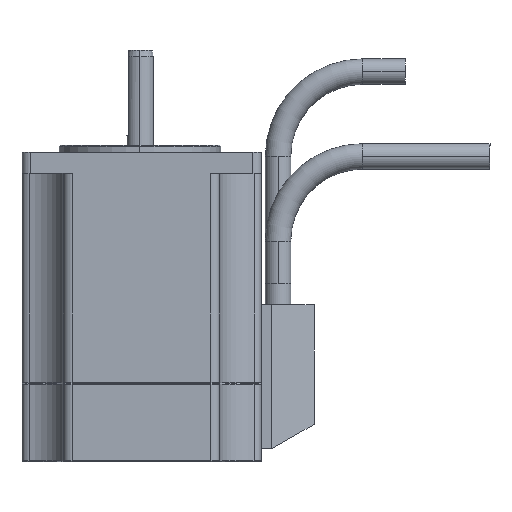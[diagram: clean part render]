
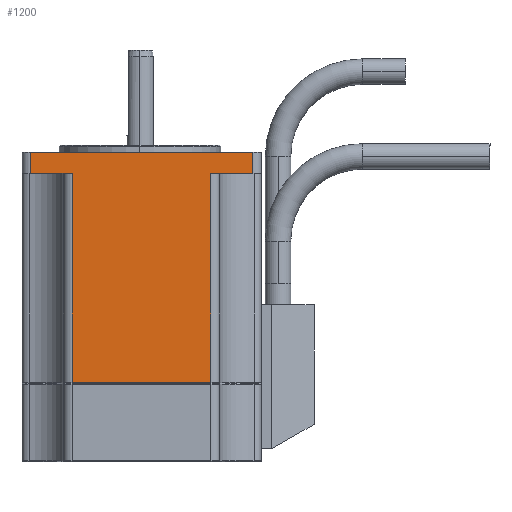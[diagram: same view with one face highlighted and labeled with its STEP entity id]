
A CAD part, left-side view. The second image highlights one B-rep face of the part: STEP entity #1200.
In plain terms, the highlighted planar face has unit normal (-1, 0, 0).
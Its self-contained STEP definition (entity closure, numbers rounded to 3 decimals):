
#2 = ORIENTED_EDGE ( 'NONE', *, *, #400, .F. ) ;
#20 = VERTEX_POINT ( 'NONE', #3363 ) ;
#54 = VECTOR ( 'NONE', #1862, 1000. ) ;
#62 = LINE ( 'NONE', #2256, #4135 ) ;
#185 = CARTESIAN_POINT ( 'NONE',  ( 0., 2., -49.3 ) ) ;
#248 = VERTEX_POINT ( 'NONE', #2020 ) ;
#320 = ORIENTED_EDGE ( 'NONE', *, *, #3633, .T. ) ;
#400 = EDGE_CURVE ( 'NONE', #2404, #3185, #4085, .T. ) ;
#403 = CARTESIAN_POINT ( 'NONE',  ( 0., 44.568, -49.3 ) ) ;
#497 = PLANE ( 'NONE',  #4374 ) ;
#560 = LINE ( 'NONE', #4610, #4583 ) ;
#730 = VECTOR ( 'NONE', #2179, 1000. ) ;
#865 = VECTOR ( 'NONE', #4686, 1000. ) ;
#976 = DIRECTION ( 'NONE',  ( 0., 0., -1. ) ) ;
#1099 = CARTESIAN_POINT ( 'NONE',  ( 0., 2., 0. ) ) ;
#1113 = ORIENTED_EDGE ( 'NONE', *, *, #3328, .F. ) ;
#1117 = EDGE_CURVE ( 'NONE', #248, #3185, #62, .T. ) ;
#1145 = FACE_OUTER_BOUND ( 'NONE', #2650, .T. ) ;
#1200 = ADVANCED_FACE ( 'NONE', ( #1145 ), #497, .F. ) ;
#1239 = VECTOR ( 'NONE', #3655, 1000. ) ;
#1247 = CARTESIAN_POINT ( 'NONE',  ( 0., 11.832, 5. ) ) ;
#1427 = VECTOR ( 'NONE', #4189, 1000. ) ;
#1531 = LINE ( 'NONE', #1247, #1427 ) ;
#1862 = DIRECTION ( 'NONE',  ( 0., -1., 0. ) ) ;
#2020 = CARTESIAN_POINT ( 'NONE',  ( 0., 11.832, 0. ) ) ;
#2040 = CARTESIAN_POINT ( 'NONE',  ( 0., 54.4, 0. ) ) ;
#2111 = VERTEX_POINT ( 'NONE', #2602 ) ;
#2179 = DIRECTION ( 'NONE',  ( 0., 0., -1. ) ) ;
#2244 = EDGE_CURVE ( 'NONE', #2111, #248, #1531, .T. ) ;
#2256 = CARTESIAN_POINT ( 'NONE',  ( 0., 2., 0. ) ) ;
#2342 = ORIENTED_EDGE ( 'NONE', *, *, #1117, .T. ) ;
#2404 = VERTEX_POINT ( 'NONE', #3875 ) ;
#2419 = EDGE_CURVE ( 'NONE', #3824, #2111, #3088, .T. ) ;
#2602 = CARTESIAN_POINT ( 'NONE',  ( 0., 11.832, -49.3 ) ) ;
#2650 = EDGE_LOOP ( 'NONE', ( #3407, #3873, #2955, #2342, #2, #1113, #320, #3393 ) ) ;
#2695 = CARTESIAN_POINT ( 'NONE',  ( 0., 2., 5. ) ) ;
#2699 = DIRECTION ( 'NONE',  ( 0., -1., 0. ) ) ;
#2770 = DIRECTION ( 'NONE',  ( 1., 0., 0. ) ) ;
#2795 = LINE ( 'NONE', #2920, #730 ) ;
#2862 = CARTESIAN_POINT ( 'NONE',  ( 0., 2., 5. ) ) ;
#2920 = CARTESIAN_POINT ( 'NONE',  ( 0., 44.568, 5. ) ) ;
#2955 = ORIENTED_EDGE ( 'NONE', *, *, #2244, .T. ) ;
#2964 = VERTEX_POINT ( 'NONE', #2040 ) ;
#3088 = LINE ( 'NONE', #185, #3497 ) ;
#3135 = DIRECTION ( 'NONE',  ( 0., 0., -1. ) ) ;
#3185 = VERTEX_POINT ( 'NONE', #1099 ) ;
#3187 = EDGE_CURVE ( 'NONE', #3876, #3824, #2795, .T. ) ;
#3328 = EDGE_CURVE ( 'NONE', #20, #2404, #4519, .T. ) ;
#3363 = CARTESIAN_POINT ( 'NONE',  ( 0., 54.4, 5. ) ) ;
#3393 = ORIENTED_EDGE ( 'NONE', *, *, #4331, .T. ) ;
#3407 = ORIENTED_EDGE ( 'NONE', *, *, #3187, .T. ) ;
#3497 = VECTOR ( 'NONE', #2699, 1000. ) ;
#3633 = EDGE_CURVE ( 'NONE', #20, #2964, #560, .T. ) ;
#3655 = DIRECTION ( 'NONE',  ( 0., -1., 0. ) ) ;
#3793 = CARTESIAN_POINT ( 'NONE',  ( 0., 44.568, 0. ) ) ;
#3824 = VERTEX_POINT ( 'NONE', #403 ) ;
#3873 = ORIENTED_EDGE ( 'NONE', *, *, #2419, .T. ) ;
#3875 = CARTESIAN_POINT ( 'NONE',  ( 0., 2., 5. ) ) ;
#3876 = VERTEX_POINT ( 'NONE', #3793 ) ;
#4085 = LINE ( 'NONE', #2862, #865 ) ;
#4135 = VECTOR ( 'NONE', #4526, 1000. ) ;
#4189 = DIRECTION ( 'NONE',  ( 0., 0., 1. ) ) ;
#4331 = EDGE_CURVE ( 'NONE', #2964, #3876, #4575, .T. ) ;
#4374 = AXIS2_PLACEMENT_3D ( 'NONE', #2695, #2770, #976 ) ;
#4480 = CARTESIAN_POINT ( 'NONE',  ( 0., 2., 5. ) ) ;
#4519 = LINE ( 'NONE', #4480, #54 ) ;
#4526 = DIRECTION ( 'NONE',  ( 0., -1., 0. ) ) ;
#4575 = LINE ( 'NONE', #4736, #1239 ) ;
#4583 = VECTOR ( 'NONE', #3135, 1000. ) ;
#4610 = CARTESIAN_POINT ( 'NONE',  ( 0., 54.4, 5. ) ) ;
#4686 = DIRECTION ( 'NONE',  ( 0., 0., -1. ) ) ;
#4736 = CARTESIAN_POINT ( 'NONE',  ( 0., 2., 0. ) ) ;
